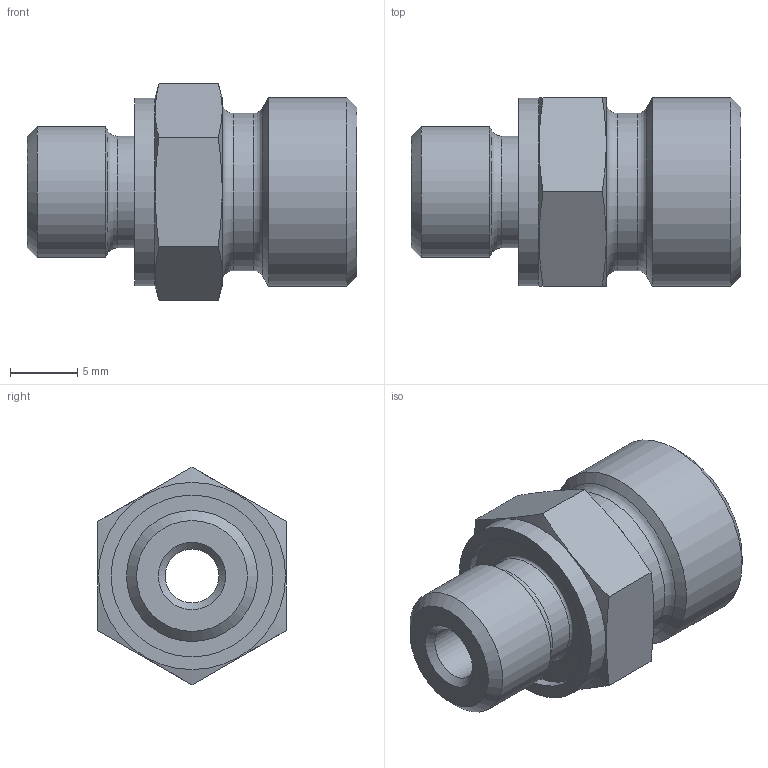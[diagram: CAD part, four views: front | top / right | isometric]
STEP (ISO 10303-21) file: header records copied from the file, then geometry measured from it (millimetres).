
FILE_DESCRIPTION(/* description */ ('Unknown','CAx-IF Rec.Pracs.---Representation and Presentation of Product Manufacturing Information (PMI)---4.0---2014-10-13','CAx-IF Rec.Pracs.---3D Tessellated Geometry---0.4---2014-09-14','2;1'),/* implementation_level */ '2;1');
FILE_NAME(/* name */ 'XGE08LED01',/* time_stamp */ '2020-11-19T08:40:16+01:00',/* author */ ('Unknown'),/* organization */ ('Unknown'),/* preprocessor_version */ 'ST-DEVELOPER v16.7',/* originating_system */ 'Solid Edge',/* authorisation */ 'Unknown');
FILE_SCHEMA (('AP242_MANAGED_MODEL_BASED_3D_ENGINEERING_MIM_LF { 1 0 10303 442 1 1 4 }'));
Length unit declared in the file: millimetre
Products named in the file (1): XGE08LED013
Bounding box: 24.5 x 14 x 16.17 mm (x, y, z)
Volume: 2324.4 mm3; surface area: 1743.6 mm2
Topology: 1 solids, 1 shells, 32 faces, 66 edges, 40 vertices
Faces by surface type: plane 12, cone 8, cylinder 8, torus 4
Full cylindrical faces by diameter (mm): 4 x1, 8 x1, 8.3 x1, 9.728 x1, 11.7 x1, 12 x1, 13.9 x1, 14 x1
Entity records: 980 total; most frequent: CARTESIAN_POINT 161, DIRECTION 122, ORIENTED_EDGE 86, EDGE_LOOP 58, FACE_BOUND 58, AXIS2_PLACEMENT_3D 58, EDGE_CURVE 43, VERTEX_POINT 37
